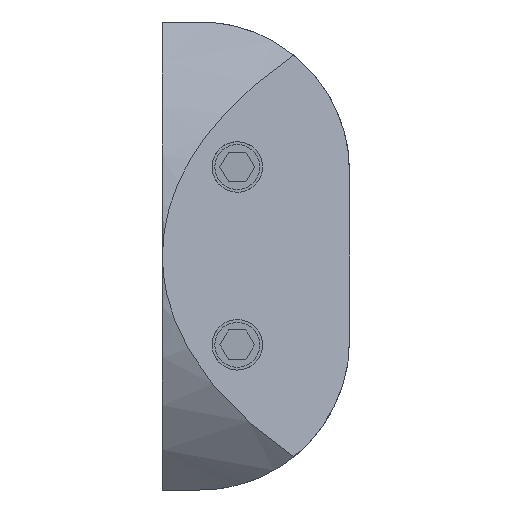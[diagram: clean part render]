
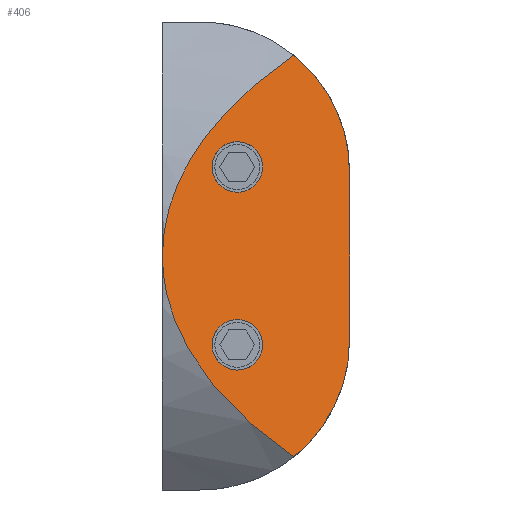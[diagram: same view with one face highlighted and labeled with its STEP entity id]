
A CAD part, top view. The second image highlights one B-rep face of the part: STEP entity #406.
In plain terms, the highlighted planar face has unit normal (0.447, 0, 0.894).
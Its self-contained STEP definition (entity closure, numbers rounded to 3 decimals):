
#32 = VERTEX_POINT('',#33);
#33 = CARTESIAN_POINT('',(0.,0.,50.));
#99 = VERTEX_POINT('',#100);
#100 = CARTESIAN_POINT('',(100.,45.,0.));
#107 = EDGE_CURVE('',#108,#99,#110,.T.);
#108 = VERTEX_POINT('',#109);
#109 = CARTESIAN_POINT('',(100.,-45.,0.));
#110 = LINE('',#111,#112);
#111 = CARTESIAN_POINT('',(100.,-125.,0.));
#112 = VECTOR('',#113,1.);
#113 = DIRECTION('',(0.,1.,0.));
#161 = VERTEX_POINT('',#162);
#162 = CARTESIAN_POINT('',(70.26,-107.241,
    14.87));
#205 = EDGE_CURVE('',#161,#32,#206,.T.);
#206 = ELLIPSE('',#207,405.287,181.25);
#207 = AXIS2_PLACEMENT_3D('',#208,#209,#210);
#208 = CARTESIAN_POINT('',(362.5,0.,-131.25));
#209 = DIRECTION('',(-0.447,0.,-0.894));
#210 = DIRECTION('',(-0.894,0.,0.447));
#221 = VERTEX_POINT('',#222);
#222 = CARTESIAN_POINT('',(70.26,107.241,
    14.87));
#263 = EDGE_CURVE('',#32,#221,#264,.T.);
#264 = ELLIPSE('',#265,405.287,181.25);
#265 = AXIS2_PLACEMENT_3D('',#266,#267,#268);
#266 = CARTESIAN_POINT('',(362.5,0.,-131.25));
#267 = DIRECTION('',(-0.447,0.,-0.894));
#268 = DIRECTION('',(-0.894,0.,0.447));
#376 = EDGE_CURVE('',#108,#161,#377,.T.);
#377 = ELLIPSE('',#378,89.443,80.);
#378 = AXIS2_PLACEMENT_3D('',#379,#380,#381);
#379 = CARTESIAN_POINT('',(20.,-45.,40.));
#380 = DIRECTION('',(-0.447,-0.,-0.894));
#381 = DIRECTION('',(0.894,0.,-0.447));
#394 = EDGE_CURVE('',#221,#99,#395,.T.);
#395 = ELLIPSE('',#396,89.443,80.);
#396 = AXIS2_PLACEMENT_3D('',#397,#398,#399);
#397 = CARTESIAN_POINT('',(20.,45.,40.));
#398 = DIRECTION('',(-0.447,-0.,-0.894));
#399 = DIRECTION('',(0.894,0.,-0.447));
#406 = ADVANCED_FACE('',(#407,#414,#425),#436,.T.);
#407 = FACE_BOUND('',#408,.T.);
#408 = EDGE_LOOP('',(#409,#410,#411,#412,#413));
#409 = ORIENTED_EDGE('',*,*,#107,.T.);
#410 = ORIENTED_EDGE('',*,*,#394,.F.);
#411 = ORIENTED_EDGE('',*,*,#263,.F.);
#412 = ORIENTED_EDGE('',*,*,#205,.F.);
#413 = ORIENTED_EDGE('',*,*,#376,.F.);
#414 = FACE_BOUND('',#415,.T.);
#415 = EDGE_LOOP('',(#416));
#416 = ORIENTED_EDGE('',*,*,#417,.F.);
#417 = EDGE_CURVE('',#418,#418,#420,.T.);
#418 = VERTEX_POINT('',#419);
#419 = CARTESIAN_POINT('',(53.5,-47.5,23.25));
#420 = ELLIPSE('',#421,15.093,13.5);
#421 = AXIS2_PLACEMENT_3D('',#422,#423,#424);
#422 = CARTESIAN_POINT('',(40.,-47.5,30.));
#423 = DIRECTION('',(0.447,-0.,0.894));
#424 = DIRECTION('',(0.894,0.,-0.447));
#425 = FACE_BOUND('',#426,.T.);
#426 = EDGE_LOOP('',(#427));
#427 = ORIENTED_EDGE('',*,*,#428,.F.);
#428 = EDGE_CURVE('',#429,#429,#431,.T.);
#429 = VERTEX_POINT('',#430);
#430 = CARTESIAN_POINT('',(53.5,47.5,23.25));
#431 = ELLIPSE('',#432,15.093,13.5);
#432 = AXIS2_PLACEMENT_3D('',#433,#434,#435);
#433 = CARTESIAN_POINT('',(40.,47.5,30.));
#434 = DIRECTION('',(0.447,-0.,0.894));
#435 = DIRECTION('',(0.894,0.,-0.447));
#436 = PLANE('',#437);
#437 = AXIS2_PLACEMENT_3D('',#438,#439,#440);
#438 = CARTESIAN_POINT('',(57.867,0.,
    21.066));
#439 = DIRECTION('',(0.447,0.,0.894));
#440 = DIRECTION('',(0.894,0.,-0.447));
